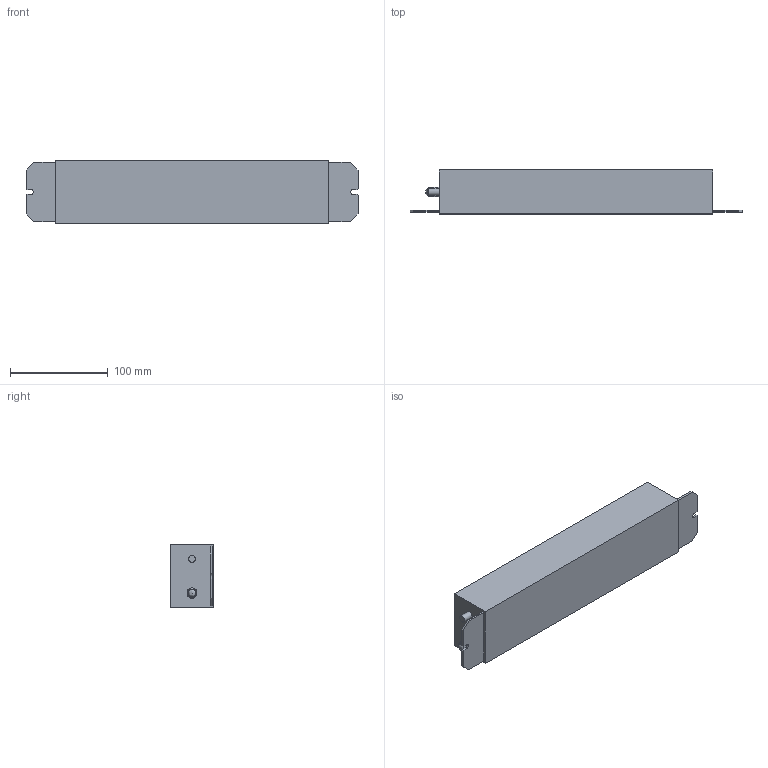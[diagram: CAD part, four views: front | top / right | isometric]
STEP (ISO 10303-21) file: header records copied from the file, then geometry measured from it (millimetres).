
FILE_DESCRIPTION(/* description */ (''),/* implementation_level */ '2;1');
FILE_NAME(/* name */ 'E:\Работа\Веда МК (Данфосс)\!Текущие задачи\2024.08.30 3D модели дросселей\Тормозные резисторы\STP\E54-2.stp',/* time_stamp */ '2024-09-04T07:29:30+04:00',/* author */ ('Александр (огранич)'),/* organization */ (''),/* preprocessor_version */ 'ST-DEVELOPER v18.1',/* originating_system */ 'Autodesk Inventor 2021',/* authorisation */ '');
FILE_SCHEMA (('AUTOMOTIVE_DESIGN { 1 0 10303 214 3 1 1 }'));
Length unit declared in the file: millimetre
Products named in the file (1): E54-1
Bounding box: 340 x 45 x 65 mm (x, y, z)
Volume: 827387.8 mm3; surface area: 75271.2 mm2
Topology: 1 solids, 1 shells, 51 faces, 132 edges, 86 vertices
Faces by surface type: plane 44, cylinder 4, cone 2, bspline 1
Full cylindrical faces by diameter (mm): 6.928 x1, 10 x1
Entity records: 1608 total; most frequent: CARTESIAN_POINT 331, ORIENTED_EDGE 262, DIRECTION 245, EDGE_CURVE 131, LINE 101, VECTOR 101, VERTEX_POINT 86, AXIS2_PLACEMENT_3D 72
